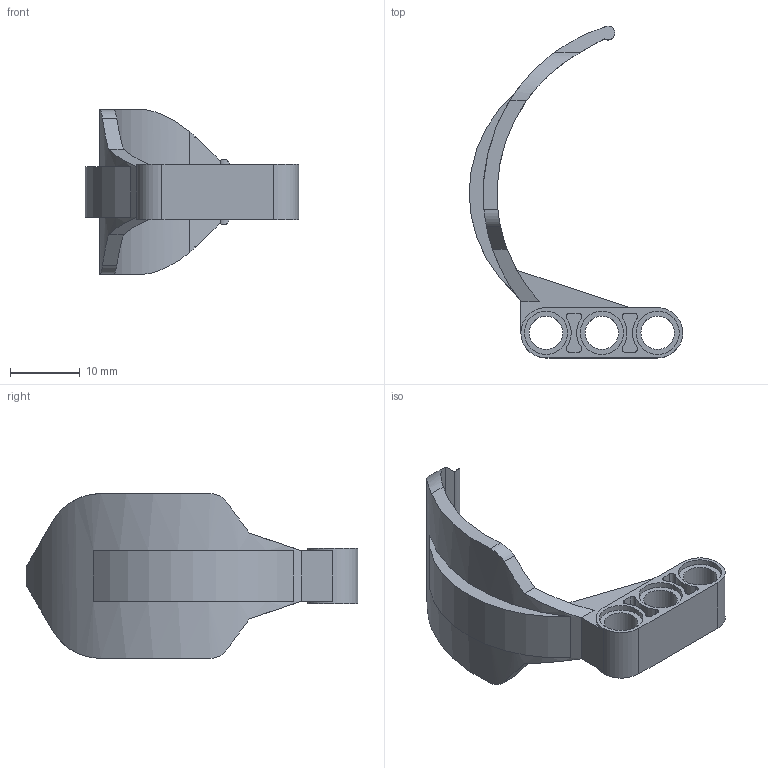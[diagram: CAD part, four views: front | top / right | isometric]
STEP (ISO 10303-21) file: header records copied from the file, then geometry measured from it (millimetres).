
FILE_DESCRIPTION(/* description */ ('Unknown'),/* implementation_level */ '2;1');
FILE_NAME(/* name */ 'Black_6022769_JCA',/* time_stamp */ '2025-07-21T23:49:24+02:00',/* author */ ('Unknown'),/* organization */ ('Unknown'),/* preprocessor_version */ 'ST-DEVELOPER v19.4',/* originating_system */ 'Solid Edge',/* authorisation */ 'Unknown');
FILE_SCHEMA (('AUTOMOTIVE_DESIGN {1 0 10303 214 3 1 1}'));
Length unit declared in the file: millimetre
Products named in the file (1): Black_6022769_JCA
Bounding box: 30.6 x 47.56 x 23.6 mm (x, y, z)
Volume: 2955.5 mm3; surface area: 3348.3 mm2
Topology: 1 solids, 1 shells, 82 faces, 205 edges, 136 vertices
Faces by surface type: cylinder 43, plane 39
Full cylindrical faces by diameter (mm): 4.8 x3, 6.2 x6
Entity records: 2502 total; most frequent: DIRECTION 450, CARTESIAN_POINT 447, ORIENTED_EDGE 392, EDGE_CURVE 196, AXIS2_PLACEMENT_3D 179, VERTEX_POINT 136, EDGE_LOOP 108, FACE_BOUND 108
